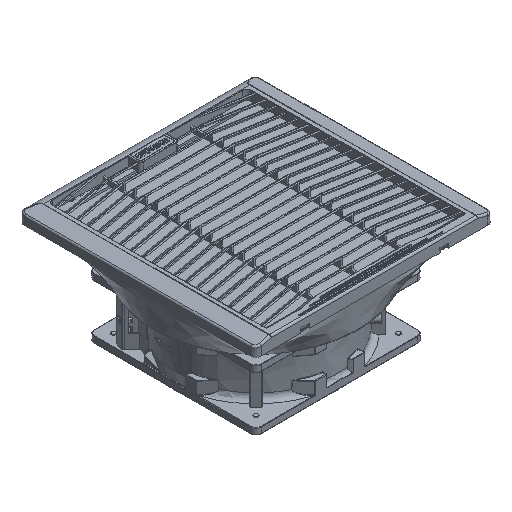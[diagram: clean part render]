
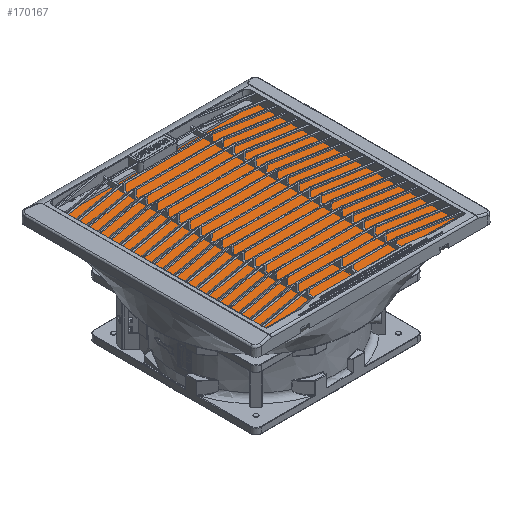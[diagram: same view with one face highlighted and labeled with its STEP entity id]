
A CAD part, isometric view. The second image highlights one B-rep face of the part: STEP entity #170167.
In plain terms, the highlighted planar face has unit normal (0, 0, 1).
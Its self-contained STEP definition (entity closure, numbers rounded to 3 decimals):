
#6522=PLANE('',#181698);
#15730=LINE('',#263244,#28999);
#15733=LINE('',#263250,#29002);
#15736=LINE('',#263256,#29005);
#15739=LINE('',#263260,#29008);
#28999=VECTOR('',#204604,10.);
#29002=VECTOR('',#204609,10.);
#29005=VECTOR('',#204614,10.);
#29008=VECTOR('',#204619,10.);
#40009=FACE_OUTER_BOUND('',#50393,.T.);
#50393=EDGE_LOOP('',(#132768,#132769,#132770,#132771));
#75426=VERTEX_POINT('',#263241);
#75427=VERTEX_POINT('',#263243);
#75429=VERTEX_POINT('',#263249);
#75431=VERTEX_POINT('',#263255);
#95901=EDGE_CURVE('',#75427,#75426,#15730,.T.);
#95904=EDGE_CURVE('',#75429,#75427,#15733,.T.);
#95907=EDGE_CURVE('',#75431,#75429,#15736,.T.);
#95910=EDGE_CURVE('',#75426,#75431,#15739,.T.);
#132768=ORIENTED_EDGE('',*,*,#95910,.T.);
#132769=ORIENTED_EDGE('',*,*,#95907,.T.);
#132770=ORIENTED_EDGE('',*,*,#95904,.T.);
#132771=ORIENTED_EDGE('',*,*,#95901,.T.);
#170167=ADVANCED_FACE('',(#40009),#6522,.T.);
#181698=AXIS2_PLACEMENT_3D('',#263262,#204622,#204623);
#204604=DIRECTION('',(0.,1.,0.));
#204609=DIRECTION('',(1.,0.,0.));
#204614=DIRECTION('',(0.,-1.,0.));
#204619=DIRECTION('',(-1.,0.,0.));
#204622=DIRECTION('center_axis',(0.,0.,1.));
#204623=DIRECTION('ref_axis',(1.,0.,0.));
#263241=CARTESIAN_POINT('',(106.85,106.85,12.));
#263243=CARTESIAN_POINT('',(106.85,-106.85,12.));
#263244=CARTESIAN_POINT('',(106.85,106.85,12.));
#263249=CARTESIAN_POINT('',(-106.85,-106.85,12.));
#263250=CARTESIAN_POINT('',(106.85,-106.85,12.));
#263255=CARTESIAN_POINT('',(-106.85,106.85,12.));
#263256=CARTESIAN_POINT('',(-106.85,-106.85,12.));
#263260=CARTESIAN_POINT('',(-106.85,106.85,12.));
#263262=CARTESIAN_POINT('Origin',(0.,0.,
12.));
